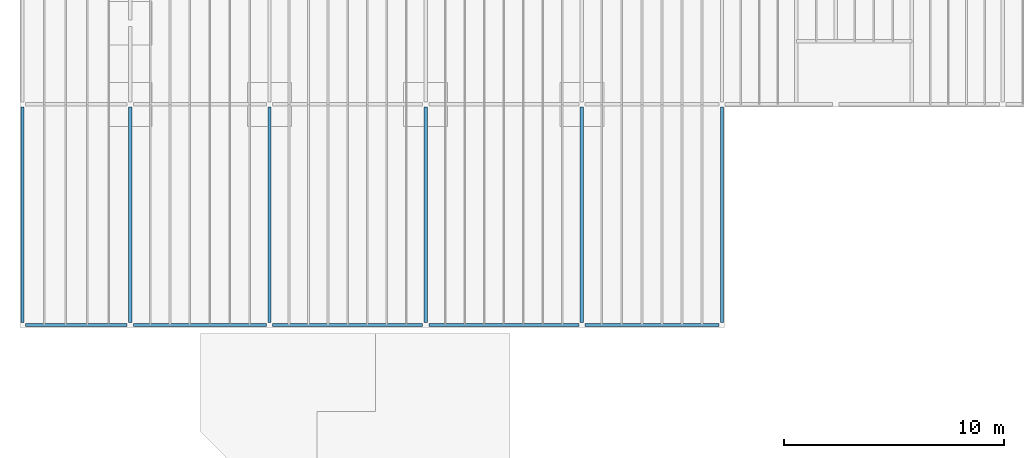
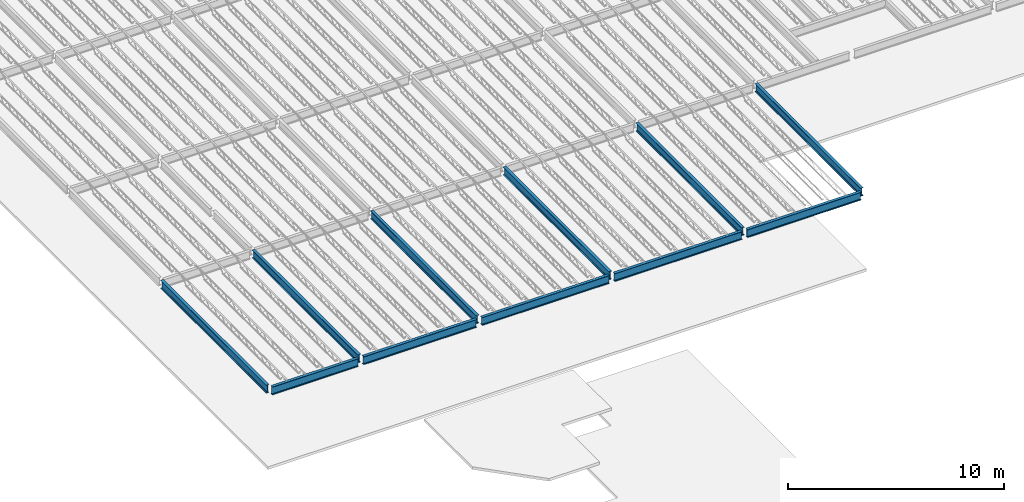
# One storey, part 3 of 75: 11 beams.
"""IFC2X3 building model written with IfcOpenShell, lengths in metres."""

from ifc_helpers import new_model, entity, si_unit, converted_unit, frame, frame_2d, origin, place, context, project, spatial, polyline, circle_curve, parameter, trimmed, segment, composite_curve, outline, extrude, material, element, save


model = new_model("IFC2X3")

# Units and contexts
model_context = context("Model", 3, precision=1e-09, world=origin())
plan_context = context("Plan", 3, precision=1e-09, world=origin())
ifc_project = project(units=[si_unit("LENGTHUNIT", "METRE"), si_unit("AREAUNIT", "SQUARE_METRE"), si_unit("VOLUMEUNIT", "CUBIC_METRE"), converted_unit("PLANEANGLEUNIT", "DEGREE", entity("IfcRatioMeasure", 0.01745329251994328), si_unit("PLANEANGLEUNIT", "RADIAN"), dimensions=[0, 0, 0, 0, 0, 0, 0]), si_unit("TIMEUNIT", "SECOND")], contexts=[model_context, plan_context])

# Site, building, storey
site_placement = place(None, origin())
site = spatial("IfcSite", under=ifc_project, at=site_placement, Name="Default", CompositionType="ELEMENT")
building_placement = place(site_placement, origin())
building = spatial("IfcBuilding", under=site, at=building_placement, CompositionType="ELEMENT")
storey_placement = place(building_placement, origin())
storey = spatial("IfcBuildingStorey", under=building, at=storey_placement, Name="First Floor", CompositionType="ELEMENT", Elevation=-3.531500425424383e-13)

# Beams
ifc_material = material(Name="Metal - Steel - 345 MPa")
beam_1_placement = place(storey_placement, frame((-47.00215974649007, 0.0, 4.404500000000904), z_axis=(0.0, 0.0, 1.0), x_axis=(0.0, -1.0, 0.0)))
element("IfcBeam", 1, at=beam_1_placement, inside=storey, material=ifc_material, Name="M_W-Wide Flange:W460X60:W460X60", ObjectType="M_W-Wide Flange:W460X60", context=model_context, shape_type="SweptSolid", body=[
    extrude(outline(composite_curve([segment(polyline([(-0.07650000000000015, -0.2142000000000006), (-0.07650000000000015, -0.2275000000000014)]), True, "CONTINUOUS"), segment(polyline([(-0.07650000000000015, -0.2275000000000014), (0.07650000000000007, -0.2275000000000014)]), True, "CONTINUOUS"), segment(polyline([(0.07650000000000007, -0.2275000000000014), (0.07650000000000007, -0.2142000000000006)]), True, "CONTINUOUS"), segment(polyline([(0.07650000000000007, -0.2142000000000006), (0.02169999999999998, -0.2142000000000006)]), True, "CONTINUOUS"), segment(trimmed(circle_curve(frame_2d((0.02169999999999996, -0.1965000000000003), x_axis=(1.0, 0.0)), 0.0177), [parameter(180.0)], [parameter(269.9999999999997)], True, "PARAMETER"), False, "CONTINUOUS"), segment(polyline([(0.003999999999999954, -0.1965000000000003), (0.003999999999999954, 0.1964999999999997)]), True, "CONTINUOUS"), segment(trimmed(circle_curve(frame_2d((0.02169999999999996, 0.1964999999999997), x_axis=(1.0, 0.0)), 0.0177), [parameter(90.00000000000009)], [parameter(179.9999999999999)], True, "PARAMETER"), False, "CONTINUOUS"), segment(polyline([(0.02169999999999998, 0.2141999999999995), (0.07650000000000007, 0.2141999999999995)]), True, "CONTINUOUS"), segment(polyline([(0.07650000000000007, 0.2141999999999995), (0.07650000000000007, 0.2274999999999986)]), True, "CONTINUOUS"), segment(polyline([(0.07650000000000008, 0.2274999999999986), (-0.07649999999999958, 0.2274999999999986)]), True, "CONTINUOUS"), segment(polyline([(-0.07649999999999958, 0.2274999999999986), (-0.07649999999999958, 0.2141999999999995)]), True, "CONTINUOUS"), segment(polyline([(-0.07649999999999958, 0.2141999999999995), (-0.0217000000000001, 0.2141999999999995)]), True, "CONTINUOUS"), segment(trimmed(circle_curve(frame_2d((-0.02170000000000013, 0.1964999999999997), x_axis=(1.0, 0.0)), 0.0177), [parameter(359.9999999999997)], [parameter(89.99999999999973)], True, "PARAMETER"), False, "CONTINUOUS"), segment(polyline([(-0.00400000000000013, 0.1964999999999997), (-0.00400000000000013, -0.1965000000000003)]), True, "CONTINUOUS"), segment(trimmed(circle_curve(frame_2d((-0.02170000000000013, -0.1965000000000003), x_axis=(1.0, 0.0)), 0.0177), [parameter(269.9999999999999)], [parameter(0.0)], True, "PARAMETER"), False, "CONTINUOUS"), segment(polyline([(-0.02170000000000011, -0.2142000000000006), (-0.07650000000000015, -0.2142000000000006)]), True, "CONTINUOUS")], self_intersect=False)), frame((0.0, 0.1433597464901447, -0.2275000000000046), z_axis=(0.0, -1.0, 0.0), x_axis=(1.0, 0.0, 0.0)), (0.0, 0.0, -1.0), 6.05759999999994),
])
beam_2_placement = place(storey_placement, frame((-40.6619259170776, 0.0, 4.404500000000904), z_axis=(0.0, 0.0, 1.0), x_axis=(0.0, -1.0, 0.0)))
element("IfcBeam", 2, at=beam_2_placement, inside=storey, material=ifc_material, Name="M_W-Wide Flange:W460X60:W460X60", ObjectType="M_W-Wide Flange:W460X60", context=model_context, shape_type="SweptSolid", body=[
    extrude(outline(composite_curve([segment(polyline([(-0.07650000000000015, -0.2142000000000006), (-0.07650000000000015, -0.2275000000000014)]), True, "CONTINUOUS"), segment(polyline([(-0.07650000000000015, -0.2275000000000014), (0.07650000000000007, -0.2275000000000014)]), True, "CONTINUOUS"), segment(polyline([(0.07650000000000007, -0.2275000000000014), (0.07650000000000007, -0.2142000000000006)]), True, "CONTINUOUS"), segment(polyline([(0.07650000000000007, -0.2142000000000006), (0.02169999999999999, -0.2142000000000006)]), True, "CONTINUOUS"), segment(trimmed(circle_curve(frame_2d((0.02169999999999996, -0.1965000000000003), x_axis=(0.0, -1.0)), 0.0177), [parameter(269.9999999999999)], [parameter(359.9999999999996)], True, "PARAMETER"), False, "CONTINUOUS"), segment(polyline([(0.003999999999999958, -0.1965000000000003), (0.003999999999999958, 0.1964999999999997)]), True, "CONTINUOUS"), segment(trimmed(circle_curve(frame_2d((0.02169999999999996, 0.1964999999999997), x_axis=(-1.0, 0.0)), 0.0177), [parameter(269.9999999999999)], [parameter(359.9999999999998)], True, "PARAMETER"), False, "CONTINUOUS"), segment(polyline([(0.02169999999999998, 0.2141999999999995), (0.07650000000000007, 0.2141999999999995)]), True, "CONTINUOUS"), segment(polyline([(0.07650000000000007, 0.2141999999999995), (0.07650000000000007, 0.2274999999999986)]), True, "CONTINUOUS"), segment(polyline([(0.07650000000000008, 0.2274999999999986), (-0.07649999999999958, 0.2274999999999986)]), True, "CONTINUOUS"), segment(polyline([(-0.07649999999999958, 0.2274999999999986), (-0.07649999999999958, 0.2141999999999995)]), True, "CONTINUOUS"), segment(polyline([(-0.07649999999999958, 0.2141999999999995), (-0.0217000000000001, 0.2141999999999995)]), True, "CONTINUOUS"), segment(trimmed(circle_curve(frame_2d((-0.02170000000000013, 0.1964999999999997), x_axis=(0.0, 1.0)), 0.0177), [parameter(269.9999999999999)], [parameter(359.9999999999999)], True, "PARAMETER"), False, "CONTINUOUS"), segment(polyline([(-0.004000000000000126, 0.1964999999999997), (-0.004000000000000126, -0.1965000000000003)]), True, "CONTINUOUS"), segment(trimmed(circle_curve(frame_2d((-0.02170000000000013, -0.1965000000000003), x_axis=(1.0, 0.0)), 0.0177), [parameter(269.9999999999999)], [parameter(5.088887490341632e-14)], True, "PARAMETER"), False, "CONTINUOUS"), segment(polyline([(-0.0217000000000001, -0.2142000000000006), (-0.07650000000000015, -0.2142000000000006)]), True, "CONTINUOUS")], self_intersect=False)), frame((0.0, 0.1431259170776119, -0.2275000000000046), z_axis=(0.0, -1.0, 0.0), x_axis=(1.0, 0.0, 0.0)), (0.0, 0.0, -1.0), 6.827600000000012),
])
beam_3_placement = place(storey_placement, frame((-51.90000000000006, 10.04136396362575, 4.46800000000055), z_axis=(0.0, 0.0, 1.0), x_axis=(-1.0, 0.0, 0.0)))
element("IfcBeam", 3, at=beam_3_placement, inside=storey, material=ifc_material, Name="M_W-Wide Flange:W460X60:W460X60", ObjectType="M_W-Wide Flange:W460X60", context=model_context, shape_type="SweptSolid", body=[
    extrude(outline(composite_curve([segment(polyline([(0.2141999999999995, -0.07649999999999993), (0.2275000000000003, -0.07649999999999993)]), True, "CONTINUOUS"), segment(polyline([(0.2275000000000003, -0.07649999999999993), (0.2275000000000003, 0.07649999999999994)]), True, "CONTINUOUS"), segment(polyline([(0.2275000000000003, 0.07649999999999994), (0.2141999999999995, 0.07649999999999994)]), True, "CONTINUOUS"), segment(polyline([(0.2141999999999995, 0.07649999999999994), (0.2141999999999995, 0.02170000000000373)]), True, "CONTINUOUS"), segment(trimmed(circle_curve(frame_2d((0.1964999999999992, 0.02170000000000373), x_axis=(1.0, 0.0)), 0.0177), [parameter(269.9999999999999)], [parameter(359.9999999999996)], True, "PARAMETER"), False, "CONTINUOUS"), segment(polyline([(0.1964999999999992, 0.003999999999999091), (-0.1965000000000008, 0.003999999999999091)]), True, "CONTINUOUS"), segment(trimmed(circle_curve(frame_2d((-0.1965000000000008, 0.02170000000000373), x_axis=(0.0, -1.0)), 0.0177), [parameter(269.9999999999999)], [parameter(359.9999999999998)], True, "PARAMETER"), False, "CONTINUOUS"), segment(polyline([(-0.2142000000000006, 0.02170000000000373), (-0.2142000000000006, 0.07649999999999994)]), True, "CONTINUOUS"), segment(polyline([(-0.2142000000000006, 0.07649999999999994), (-0.2274999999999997, 0.07649999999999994)]), True, "CONTINUOUS"), segment(polyline([(-0.2274999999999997, 0.07649999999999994), (-0.2274999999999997, -0.07649999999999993)]), True, "CONTINUOUS"), segment(polyline([(-0.2274999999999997, -0.07649999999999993), (-0.2142000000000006, -0.07649999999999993)]), True, "CONTINUOUS"), segment(polyline([(-0.2142000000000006, -0.07649999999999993), (-0.2142000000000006, -0.02170000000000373)]), True, "CONTINUOUS"), segment(trimmed(circle_curve(frame_2d((-0.1965000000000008, -0.02169999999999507), x_axis=(-1.0, 0.0)), 0.0177), [parameter(269.9999999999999)], [parameter(359.9999999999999)], True, "PARAMETER"), False, "CONTINUOUS"), segment(polyline([(-0.1965000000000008, -0.003999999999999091), (0.1964999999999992, -0.003999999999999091)]), True, "CONTINUOUS"), segment(trimmed(circle_curve(frame_2d((0.1964999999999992, -0.02169999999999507), x_axis=(0.0, 1.0)), 0.0177), [parameter(269.9999999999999)], [parameter(5.088887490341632e-14)], True, "PARAMETER"), False, "CONTINUOUS"), segment(polyline([(0.2141999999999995, -0.02170000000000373), (0.2141999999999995, -0.07649999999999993)]), True, "CONTINUOUS")], self_intersect=False)), frame((0.0, 9.926663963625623, -0.2275000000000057), z_axis=(0.0, -1.0, 0.0), x_axis=(0.0, 0.0, -1.0)), (0.0, 0.0, 1.0), 9.81059999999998),
])
beam_4_placement = place(storey_placement, frame((-47.0, -0.001363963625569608, 4.46800000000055)))
element("IfcBeam", 4, at=beam_4_placement, inside=storey, material=ifc_material, Name="M_W-Wide Flange:W460X60:W460X60", ObjectType="M_W-Wide Flange:W460X60", context=model_context, shape_type="SweptSolid", body=[
    extrude(outline(composite_curve([segment(polyline([(-0.07649999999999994, -0.2142), (-0.07649999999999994, -0.2275000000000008)]), True, "CONTINUOUS"), segment(polyline([(-0.07649999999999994, -0.2275000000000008), (0.07649999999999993, -0.2275000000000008)]), True, "CONTINUOUS"), segment(polyline([(0.07649999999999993, -0.2275000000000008), (0.07649999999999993, -0.2142)]), True, "CONTINUOUS"), segment(polyline([(0.07649999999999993, -0.2142), (0.02170000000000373, -0.2142)]), True, "CONTINUOUS"), segment(trimmed(circle_curve(frame_2d((0.02170000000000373, -0.1964999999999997), x_axis=(0.0, -1.0)), 0.0177), [parameter(269.9999999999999)], [parameter(359.9999999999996)], True, "PARAMETER"), False, "CONTINUOUS"), segment(polyline([(0.003999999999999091, -0.1964999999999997), (0.003999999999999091, 0.1965000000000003)]), True, "CONTINUOUS"), segment(trimmed(circle_curve(frame_2d((0.02170000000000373, 0.1965000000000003), x_axis=(-1.0, 0.0)), 0.0177), [parameter(269.9999999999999)], [parameter(359.9999999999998)], True, "PARAMETER"), False, "CONTINUOUS"), segment(polyline([(0.02170000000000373, 0.2142000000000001), (0.07649999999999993, 0.2142000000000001)]), True, "CONTINUOUS"), segment(polyline([(0.07649999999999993, 0.2142000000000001), (0.07649999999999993, 0.2274999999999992)]), True, "CONTINUOUS"), segment(polyline([(0.07649999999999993, 0.2274999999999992), (-0.07649999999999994, 0.2274999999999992)]), True, "CONTINUOUS"), segment(polyline([(-0.07649999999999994, 0.2274999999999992), (-0.07649999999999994, 0.2142000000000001)]), True, "CONTINUOUS"), segment(polyline([(-0.07649999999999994, 0.2142000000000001), (-0.02170000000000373, 0.2142000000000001)]), True, "CONTINUOUS"), segment(trimmed(circle_curve(frame_2d((-0.02169999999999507, 0.1965000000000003), x_axis=(0.0, 1.0)), 0.0177), [parameter(269.9999999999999)], [parameter(359.9999999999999)], True, "PARAMETER"), False, "CONTINUOUS"), segment(polyline([(-0.003999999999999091, 0.1965000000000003), (-0.003999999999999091, -0.1964999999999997)]), True, "CONTINUOUS"), segment(trimmed(circle_curve(frame_2d((-0.02169999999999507, -0.1964999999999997), x_axis=(1.0, 0.0)), 0.0177), [parameter(269.9999999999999)], [parameter(5.088887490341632e-14)], True, "PARAMETER"), False, "CONTINUOUS"), segment(polyline([(-0.02170000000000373, -0.2142), (-0.07649999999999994, -0.2142)]), True, "CONTINUOUS")], self_intersect=False)), frame((0.0, 0.1160639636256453, -0.2275000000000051), z_axis=(0.0, -1.0, 0.0), x_axis=(1.0, 0.0, 0.0)), (0.0, 0.0, -1.0), 9.81059999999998),
])
beam_5_placement = place(storey_placement, frame((-51.90279412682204, 0.0, 4.404500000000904), z_axis=(0.0, 0.0, 1.0), x_axis=(0.0, -1.0, 0.0)))
element("IfcBeam", 5, at=beam_5_placement, inside=storey, material=ifc_material, Name="M_W-Wide Flange:W460X60:W460X60", ObjectType="M_W-Wide Flange:W460X60", context=model_context, shape_type="SweptSolid", body=[
    extrude(outline(composite_curve([segment(polyline([(-0.07650000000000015, -0.2142000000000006), (-0.07650000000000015, -0.2275000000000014)]), True, "CONTINUOUS"), segment(polyline([(-0.07650000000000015, -0.2275000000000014), (0.07650000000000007, -0.2275000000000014)]), True, "CONTINUOUS"), segment(polyline([(0.07650000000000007, -0.2275000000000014), (0.07650000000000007, -0.2142000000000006)]), True, "CONTINUOUS"), segment(polyline([(0.07650000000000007, -0.2142000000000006), (0.02169999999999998, -0.2142000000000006)]), True, "CONTINUOUS"), segment(trimmed(circle_curve(frame_2d((0.02169999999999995, -0.1965000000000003), x_axis=(1.0, 0.0)), 0.0177), [parameter(180.0)], [parameter(269.9999999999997)], True, "PARAMETER"), False, "CONTINUOUS"), segment(polyline([(0.003999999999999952, -0.1965000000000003), (0.003999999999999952, 0.1964999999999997)]), True, "CONTINUOUS"), segment(trimmed(circle_curve(frame_2d((0.02169999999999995, 0.1964999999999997), x_axis=(1.0, 0.0)), 0.0177), [parameter(90.00000000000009)], [parameter(179.9999999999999)], True, "PARAMETER"), False, "CONTINUOUS"), segment(polyline([(0.02169999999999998, 0.2141999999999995), (0.07650000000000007, 0.2141999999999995)]), True, "CONTINUOUS"), segment(polyline([(0.07650000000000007, 0.2141999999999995), (0.07650000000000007, 0.2274999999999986)]), True, "CONTINUOUS"), segment(polyline([(0.07650000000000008, 0.2274999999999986), (-0.07649999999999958, 0.2274999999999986)]), True, "CONTINUOUS"), segment(polyline([(-0.07649999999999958, 0.2274999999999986), (-0.07649999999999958, 0.2141999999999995)]), True, "CONTINUOUS"), segment(polyline([(-0.07649999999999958, 0.2141999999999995), (-0.02170000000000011, 0.2141999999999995)]), True, "CONTINUOUS"), segment(trimmed(circle_curve(frame_2d((-0.02170000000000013, 0.1964999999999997), x_axis=(1.0, 0.0)), 0.0177), [parameter(359.9999999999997)], [parameter(89.99999999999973)], True, "PARAMETER"), False, "CONTINUOUS"), segment(polyline([(-0.004000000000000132, 0.1964999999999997), (-0.004000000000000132, -0.1965000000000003)]), True, "CONTINUOUS"), segment(trimmed(circle_curve(frame_2d((-0.02170000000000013, -0.1965000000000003), x_axis=(1.0, 0.0)), 0.0177), [parameter(269.9999999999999)], [parameter(0.0)], True, "PARAMETER"), False, "CONTINUOUS"), segment(polyline([(-0.02170000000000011, -0.2142000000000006), (-0.07650000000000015, -0.2142000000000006)]), True, "CONTINUOUS")], self_intersect=False)), frame((0.0, 0.1439941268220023, -0.2275000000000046), z_axis=(0.0, -1.0, 0.0), x_axis=(1.0, 0.0, 0.0)), (0.0, 0.0, -1.0), 4.617600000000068),
])
beam_6_placement = place(storey_placement, frame((-40.66000000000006, 10.04136396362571, 4.46800000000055), z_axis=(0.0, 0.0, 1.0), x_axis=(-1.0, 0.0, 0.0)))
element("IfcBeam", 6, at=beam_6_placement, inside=storey, material=ifc_material, Name="M_W-Wide Flange:W460X60:W460X60", ObjectType="M_W-Wide Flange:W460X60", context=model_context, shape_type="SweptSolid", body=[
    extrude(outline(composite_curve([segment(polyline([(0.2141999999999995, -0.07649999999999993), (0.2275000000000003, -0.07649999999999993)]), True, "CONTINUOUS"), segment(polyline([(0.2275000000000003, -0.07649999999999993), (0.2275000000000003, 0.07649999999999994)]), True, "CONTINUOUS"), segment(polyline([(0.2275000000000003, 0.07649999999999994), (0.2141999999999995, 0.07649999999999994)]), True, "CONTINUOUS"), segment(polyline([(0.2141999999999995, 0.07649999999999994), (0.2141999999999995, 0.02170000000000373)]), True, "CONTINUOUS"), segment(trimmed(circle_curve(frame_2d((0.1964999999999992, 0.02170000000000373), x_axis=(1.0, 0.0)), 0.0177), [parameter(269.9999999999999)], [parameter(359.9999999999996)], True, "PARAMETER"), False, "CONTINUOUS"), segment(polyline([(0.1964999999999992, 0.003999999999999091), (-0.1965000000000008, 0.003999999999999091)]), True, "CONTINUOUS"), segment(trimmed(circle_curve(frame_2d((-0.1965000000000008, 0.02170000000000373), x_axis=(0.0, -1.0)), 0.0177), [parameter(269.9999999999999)], [parameter(359.9999999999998)], True, "PARAMETER"), False, "CONTINUOUS"), segment(polyline([(-0.2142000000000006, 0.02170000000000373), (-0.2142000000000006, 0.07649999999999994)]), True, "CONTINUOUS"), segment(polyline([(-0.2142000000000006, 0.07649999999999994), (-0.2274999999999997, 0.07649999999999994)]), True, "CONTINUOUS"), segment(polyline([(-0.2274999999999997, 0.07649999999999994), (-0.2274999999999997, -0.07649999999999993)]), True, "CONTINUOUS"), segment(polyline([(-0.2274999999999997, -0.07649999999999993), (-0.2142000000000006, -0.07649999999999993)]), True, "CONTINUOUS"), segment(polyline([(-0.2142000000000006, -0.07649999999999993), (-0.2142000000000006, -0.02170000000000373)]), True, "CONTINUOUS"), segment(trimmed(circle_curve(frame_2d((-0.1965000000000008, -0.02169999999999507), x_axis=(-1.0, 0.0)), 0.0177), [parameter(269.9999999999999)], [parameter(359.9999999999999)], True, "PARAMETER"), False, "CONTINUOUS"), segment(polyline([(-0.1965000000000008, -0.003999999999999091), (0.1964999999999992, -0.003999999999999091)]), True, "CONTINUOUS"), segment(trimmed(circle_curve(frame_2d((0.1964999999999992, -0.02169999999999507), x_axis=(0.0, 1.0)), 0.0177), [parameter(269.9999999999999)], [parameter(5.088887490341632e-14)], True, "PARAMETER"), False, "CONTINUOUS"), segment(polyline([(0.2141999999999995, -0.02170000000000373), (0.2141999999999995, -0.07649999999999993)]), True, "CONTINUOUS")], self_intersect=False)), frame((0.0, 9.926663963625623, -0.2275000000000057), z_axis=(0.0, -1.0, 0.0), x_axis=(0.0, 0.0, -1.0)), (0.0, 0.0, 1.0), 9.81059999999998),
])
beam_7_placement = place(storey_placement, frame((-26.4421462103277, 0.0, 4.404500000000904), z_axis=(0.0, 0.0, 1.0), x_axis=(0.0, -1.0, 0.0)))
element("IfcBeam", 7, at=beam_7_placement, inside=storey, material=ifc_material, Name="M_W-Wide Flange:W460X60:W460X60", ObjectType="M_W-Wide Flange:W460X60", context=model_context, shape_type="SweptSolid", body=[
    extrude(outline(composite_curve([segment(polyline([(-0.07650000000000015, -0.2142000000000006), (-0.07650000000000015, -0.2275000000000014)]), True, "CONTINUOUS"), segment(polyline([(-0.07650000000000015, -0.2275000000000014), (0.07650000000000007, -0.2275000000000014)]), True, "CONTINUOUS"), segment(polyline([(0.07650000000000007, -0.2275000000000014), (0.07650000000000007, -0.2142000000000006)]), True, "CONTINUOUS"), segment(polyline([(0.07650000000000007, -0.2142000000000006), (0.02169999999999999, -0.2142000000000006)]), True, "CONTINUOUS"), segment(trimmed(circle_curve(frame_2d((0.02169999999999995, -0.1965000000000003), x_axis=(0.0, -1.0)), 0.0177), [parameter(269.9999999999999)], [parameter(359.9999999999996)], True, "PARAMETER"), False, "CONTINUOUS"), segment(polyline([(0.003999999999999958, -0.1965000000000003), (0.003999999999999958, 0.1964999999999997)]), True, "CONTINUOUS"), segment(trimmed(circle_curve(frame_2d((0.02169999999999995, 0.1964999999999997), x_axis=(-1.0, 0.0)), 0.0177), [parameter(269.9999999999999)], [parameter(359.9999999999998)], True, "PARAMETER"), False, "CONTINUOUS"), segment(polyline([(0.02169999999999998, 0.2141999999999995), (0.07650000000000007, 0.2141999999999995)]), True, "CONTINUOUS"), segment(polyline([(0.07650000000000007, 0.2141999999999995), (0.07650000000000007, 0.2274999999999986)]), True, "CONTINUOUS"), segment(polyline([(0.07650000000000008, 0.2274999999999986), (-0.07649999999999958, 0.2274999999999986)]), True, "CONTINUOUS"), segment(polyline([(-0.07649999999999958, 0.2274999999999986), (-0.07649999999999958, 0.2141999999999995)]), True, "CONTINUOUS"), segment(polyline([(-0.07649999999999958, 0.2141999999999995), (-0.0217000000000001, 0.2141999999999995)]), True, "CONTINUOUS"), segment(trimmed(circle_curve(frame_2d((-0.02170000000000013, 0.1964999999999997), x_axis=(0.0, 1.0)), 0.0177), [parameter(269.9999999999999)], [parameter(359.9999999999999)], True, "PARAMETER"), False, "CONTINUOUS"), segment(polyline([(-0.004000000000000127, 0.1964999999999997), (-0.004000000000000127, -0.1965000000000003)]), True, "CONTINUOUS"), segment(trimmed(circle_curve(frame_2d((-0.02170000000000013, -0.1965000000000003), x_axis=(1.0, 0.0)), 0.0177), [parameter(269.9999999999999)], [parameter(5.088887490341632e-14)], True, "PARAMETER"), False, "CONTINUOUS"), segment(polyline([(-0.0217000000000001, -0.2142000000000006), (-0.07650000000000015, -0.2142000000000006)]), True, "CONTINUOUS")], self_intersect=False)), frame((0.0, 0.1433462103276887, -0.2275000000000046), z_axis=(0.0, -1.0, 0.0), x_axis=(1.0, 0.0, 0.0)), (0.0, 0.0, -1.0), 6.097600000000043),
])
beam_8_placement = place(storey_placement, frame((-26.44000000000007, 10.04136396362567, 4.46800000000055), z_axis=(0.0, 0.0, 1.0), x_axis=(-1.0, 0.0, 0.0)))
element("IfcBeam", 8, at=beam_8_placement, inside=storey, material=ifc_material, Name="M_W-Wide Flange:W460X60:W460X60", ObjectType="M_W-Wide Flange:W460X60", context=model_context, shape_type="SweptSolid", body=[
    extrude(outline(composite_curve([segment(polyline([(0.2141999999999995, -0.07650000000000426), (0.2275000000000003, -0.07650000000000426)]), True, "CONTINUOUS"), segment(polyline([(0.2275000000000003, -0.07650000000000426), (0.2275000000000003, 0.07649999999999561)]), True, "CONTINUOUS"), segment(polyline([(0.2275000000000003, 0.07649999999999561), (0.2141999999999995, 0.07649999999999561)]), True, "CONTINUOUS"), segment(polyline([(0.2141999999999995, 0.07649999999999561), (0.2141999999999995, 0.02169999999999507)]), True, "CONTINUOUS"), segment(trimmed(circle_curve(frame_2d((0.1964999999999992, 0.02169999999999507), x_axis=(1.0, 0.0)), 0.0177), [parameter(269.9999999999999)], [parameter(359.9999999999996)], True, "PARAMETER"), False, "CONTINUOUS"), segment(polyline([(0.1964999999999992, 0.00399999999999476), (-0.1965000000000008, 0.00399999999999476)]), True, "CONTINUOUS"), segment(trimmed(circle_curve(frame_2d((-0.1965000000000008, 0.02169999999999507), x_axis=(0.0, -1.0)), 0.0177), [parameter(269.9999999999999)], [parameter(359.9999999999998)], True, "PARAMETER"), False, "CONTINUOUS"), segment(polyline([(-0.2142000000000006, 0.02169999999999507), (-0.2142000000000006, 0.07649999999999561)]), True, "CONTINUOUS"), segment(polyline([(-0.2142000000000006, 0.07649999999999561), (-0.2274999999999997, 0.07649999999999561)]), True, "CONTINUOUS"), segment(polyline([(-0.2274999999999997, 0.07649999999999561), (-0.2274999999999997, -0.07650000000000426)]), True, "CONTINUOUS"), segment(polyline([(-0.2274999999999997, -0.07650000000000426), (-0.2142000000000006, -0.07650000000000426)]), True, "CONTINUOUS"), segment(polyline([(-0.2142000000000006, -0.07650000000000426), (-0.2142000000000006, -0.02170000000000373)]), True, "CONTINUOUS"), segment(trimmed(circle_curve(frame_2d((-0.1965000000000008, -0.02170000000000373), x_axis=(-1.0, 0.0)), 0.0177), [parameter(269.9999999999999)], [parameter(359.9999999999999)], True, "PARAMETER"), False, "CONTINUOUS"), segment(polyline([(-0.1965000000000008, -0.004000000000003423), (0.1964999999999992, -0.004000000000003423)]), True, "CONTINUOUS"), segment(trimmed(circle_curve(frame_2d((0.1964999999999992, -0.02170000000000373), x_axis=(0.0, 1.0)), 0.0177), [parameter(269.9999999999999)], [parameter(5.088887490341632e-14)], True, "PARAMETER"), False, "CONTINUOUS"), segment(polyline([(0.2141999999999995, -0.02170000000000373), (0.2141999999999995, -0.07650000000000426)]), True, "CONTINUOUS")], self_intersect=False)), frame((0.0, 9.926663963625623, -0.2275000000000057), z_axis=(0.0, -1.0, 0.0), x_axis=(0.0, 0.0, -1.0)), (0.0, 0.0, 1.0), 9.81059999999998),
])
beam_9_placement = place(storey_placement, frame((-33.55000000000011, -0.001363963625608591, 4.46800000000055)))
element("IfcBeam", 9, at=beam_9_placement, inside=storey, material=ifc_material, Name="M_W-Wide Flange:W460X60:W460X60", ObjectType="M_W-Wide Flange:W460X60", context=model_context, shape_type="SweptSolid", body=[
    extrude(outline(composite_curve([segment(polyline([(-0.07649999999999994, -0.2142), (-0.07649999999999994, -0.2275000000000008)]), True, "CONTINUOUS"), segment(polyline([(-0.07649999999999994, -0.2275000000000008), (0.07649999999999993, -0.2275000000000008)]), True, "CONTINUOUS"), segment(polyline([(0.07649999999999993, -0.2275000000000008), (0.07649999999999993, -0.2142)]), True, "CONTINUOUS"), segment(polyline([(0.07649999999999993, -0.2142), (0.0216999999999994, -0.2142)]), True, "CONTINUOUS"), segment(trimmed(circle_curve(frame_2d((0.0216999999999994, -0.1964999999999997), x_axis=(0.0, -1.0)), 0.0177), [parameter(269.9999999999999)], [parameter(359.9999999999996)], True, "PARAMETER"), False, "CONTINUOUS"), segment(polyline([(0.003999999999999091, -0.1964999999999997), (0.003999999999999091, 0.1965000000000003)]), True, "CONTINUOUS"), segment(trimmed(circle_curve(frame_2d((0.0216999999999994, 0.1965000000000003), x_axis=(-1.0, 0.0)), 0.0177), [parameter(269.9999999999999)], [parameter(359.9999999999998)], True, "PARAMETER"), False, "CONTINUOUS"), segment(polyline([(0.0216999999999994, 0.2142000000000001), (0.07649999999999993, 0.2142000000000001)]), True, "CONTINUOUS"), segment(polyline([(0.07649999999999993, 0.2142000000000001), (0.07649999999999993, 0.2274999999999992)]), True, "CONTINUOUS"), segment(polyline([(0.07649999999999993, 0.2274999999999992), (-0.07649999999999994, 0.2274999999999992)]), True, "CONTINUOUS"), segment(polyline([(-0.07649999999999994, 0.2274999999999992), (-0.07649999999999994, 0.2142000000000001)]), True, "CONTINUOUS"), segment(polyline([(-0.07649999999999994, 0.2142000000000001), (-0.0216999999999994, 0.2142000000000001)]), True, "CONTINUOUS"), segment(trimmed(circle_curve(frame_2d((-0.0216999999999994, 0.1965000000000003), x_axis=(0.0, 1.0)), 0.0177), [parameter(269.9999999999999)], [parameter(359.9999999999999)], True, "PARAMETER"), False, "CONTINUOUS"), segment(polyline([(-0.003999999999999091, 0.1965000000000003), (-0.003999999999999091, -0.1964999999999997)]), True, "CONTINUOUS"), segment(trimmed(circle_curve(frame_2d((-0.0216999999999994, -0.1964999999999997), x_axis=(1.0, 0.0)), 0.0177), [parameter(269.9999999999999)], [parameter(5.088887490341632e-14)], True, "PARAMETER"), False, "CONTINUOUS"), segment(polyline([(-0.0216999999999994, -0.2142), (-0.07649999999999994, -0.2142)]), True, "CONTINUOUS")], self_intersect=False)), frame((0.0, 0.116063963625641, -0.2275000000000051), z_axis=(0.0, -1.0, 0.0), x_axis=(1.0, 0.0, 0.0)), (0.0, 0.0, -1.0), 9.81059999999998),
])
beam_10_placement = place(storey_placement, frame((-33.55192591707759, 0.0, 4.404500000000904), z_axis=(0.0, 0.0, 1.0), x_axis=(0.0, -1.0, 0.0)))
element("IfcBeam", 10, at=beam_10_placement, inside=storey, material=ifc_material, Name="M_W-Wide Flange:W460X60:W460X60", ObjectType="M_W-Wide Flange:W460X60", context=model_context, shape_type="SweptSolid", body=[
    extrude(outline(composite_curve([segment(polyline([(-0.07650000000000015, -0.2142000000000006), (-0.07650000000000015, -0.2275000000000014)]), True, "CONTINUOUS"), segment(polyline([(-0.07650000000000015, -0.2275000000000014), (0.07650000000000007, -0.2275000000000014)]), True, "CONTINUOUS"), segment(polyline([(0.07650000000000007, -0.2275000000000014), (0.07650000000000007, -0.2142000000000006)]), True, "CONTINUOUS"), segment(polyline([(0.07650000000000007, -0.2142000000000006), (0.02169999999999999, -0.2142000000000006)]), True, "CONTINUOUS"), segment(trimmed(circle_curve(frame_2d((0.02169999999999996, -0.1965000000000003), x_axis=(0.0, -1.0)), 0.0177), [parameter(269.9999999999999)], [parameter(359.9999999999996)], True, "PARAMETER"), False, "CONTINUOUS"), segment(polyline([(0.003999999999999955, -0.1965000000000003), (0.003999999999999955, 0.1964999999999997)]), True, "CONTINUOUS"), segment(trimmed(circle_curve(frame_2d((0.02169999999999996, 0.1964999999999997), x_axis=(-1.0, 0.0)), 0.0177), [parameter(269.9999999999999)], [parameter(359.9999999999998)], True, "PARAMETER"), False, "CONTINUOUS"), segment(polyline([(0.02169999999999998, 0.2141999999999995), (0.07650000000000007, 0.2141999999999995)]), True, "CONTINUOUS"), segment(polyline([(0.07650000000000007, 0.2141999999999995), (0.07650000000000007, 0.2274999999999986)]), True, "CONTINUOUS"), segment(polyline([(0.07650000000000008, 0.2274999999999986), (-0.07649999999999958, 0.2274999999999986)]), True, "CONTINUOUS"), segment(polyline([(-0.07649999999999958, 0.2274999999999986), (-0.07649999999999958, 0.2141999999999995)]), True, "CONTINUOUS"), segment(polyline([(-0.07649999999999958, 0.2141999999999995), (-0.02170000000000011, 0.2141999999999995)]), True, "CONTINUOUS"), segment(trimmed(circle_curve(frame_2d((-0.02170000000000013, 0.1964999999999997), x_axis=(0.0, 1.0)), 0.0177), [parameter(269.9999999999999)], [parameter(359.9999999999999)], True, "PARAMETER"), False, "CONTINUOUS"), segment(polyline([(-0.004000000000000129, 0.1964999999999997), (-0.004000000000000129, -0.1965000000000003)]), True, "CONTINUOUS"), segment(trimmed(circle_curve(frame_2d((-0.02170000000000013, -0.1965000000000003), x_axis=(1.0, 0.0)), 0.0177), [parameter(269.9999999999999)], [parameter(5.088887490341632e-14)], True, "PARAMETER"), False, "CONTINUOUS"), segment(polyline([(-0.02170000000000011, -0.2142000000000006), (-0.07650000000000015, -0.2142000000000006)]), True, "CONTINUOUS")], self_intersect=False)), frame((0.0, 0.1431259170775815, -0.2275000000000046), z_axis=(0.0, -1.0, 0.0), x_axis=(1.0, 0.0, 0.0)), (0.0, 0.0, -1.0), 6.827600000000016),
])
beam_11_placement = place(storey_placement, frame((-20.05999999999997, -0.00136396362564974, 4.46800000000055)))
element("IfcBeam", 11, at=beam_11_placement, inside=storey, material=ifc_material, Name="M_W-Wide Flange:W460X60:W460X60", ObjectType="M_W-Wide Flange:W460X60", context=model_context, shape_type="SweptSolid", body=[
    extrude(outline(composite_curve([segment(polyline([(-0.07649999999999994, -0.2142), (-0.07649999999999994, -0.2275000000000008)]), True, "CONTINUOUS"), segment(polyline([(-0.07649999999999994, -0.2275000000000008), (0.07649999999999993, -0.2275000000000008)]), True, "CONTINUOUS"), segment(polyline([(0.07649999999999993, -0.2275000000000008), (0.07649999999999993, -0.2142)]), True, "CONTINUOUS"), segment(polyline([(0.07649999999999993, -0.2142), (0.0216999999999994, -0.2142)]), True, "CONTINUOUS"), segment(trimmed(circle_curve(frame_2d((0.0216999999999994, -0.1964999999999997), x_axis=(0.0, -1.0)), 0.0177), [parameter(269.9999999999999)], [parameter(359.9999999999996)], True, "PARAMETER"), False, "CONTINUOUS"), segment(polyline([(0.003999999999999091, -0.1964999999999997), (0.003999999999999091, 0.1965000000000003)]), True, "CONTINUOUS"), segment(trimmed(circle_curve(frame_2d((0.0216999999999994, 0.1965000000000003), x_axis=(-1.0, 0.0)), 0.0177), [parameter(269.9999999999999)], [parameter(359.9999999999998)], True, "PARAMETER"), False, "CONTINUOUS"), segment(polyline([(0.0216999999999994, 0.2142000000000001), (0.07649999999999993, 0.2142000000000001)]), True, "CONTINUOUS"), segment(polyline([(0.07649999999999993, 0.2142000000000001), (0.07649999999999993, 0.2274999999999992)]), True, "CONTINUOUS"), segment(polyline([(0.07649999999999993, 0.2274999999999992), (-0.07649999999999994, 0.2274999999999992)]), True, "CONTINUOUS"), segment(polyline([(-0.07649999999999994, 0.2274999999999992), (-0.07649999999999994, 0.2142000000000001)]), True, "CONTINUOUS"), segment(polyline([(-0.07649999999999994, 0.2142000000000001), (-0.0216999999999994, 0.2142000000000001)]), True, "CONTINUOUS"), segment(trimmed(circle_curve(frame_2d((-0.0216999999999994, 0.1965000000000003), x_axis=(0.0, 1.0)), 0.0177), [parameter(269.9999999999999)], [parameter(359.9999999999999)], True, "PARAMETER"), False, "CONTINUOUS"), segment(polyline([(-0.003999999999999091, 0.1965000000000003), (-0.003999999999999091, -0.1964999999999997)]), True, "CONTINUOUS"), segment(trimmed(circle_curve(frame_2d((-0.0216999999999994, -0.1964999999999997), x_axis=(1.0, 0.0)), 0.0177), [parameter(269.9999999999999)], [parameter(5.088887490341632e-14)], True, "PARAMETER"), False, "CONTINUOUS"), segment(polyline([(-0.0216999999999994, -0.2142), (-0.07649999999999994, -0.2142)]), True, "CONTINUOUS")], self_intersect=False)), frame((0.0, 0.1160639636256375, -0.2275000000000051), z_axis=(0.0, -1.0, 0.0), x_axis=(1.0, 0.0, 0.0)), (0.0, 0.0, -1.0), 9.81059999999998),
])

save(model, "model.ifc")
